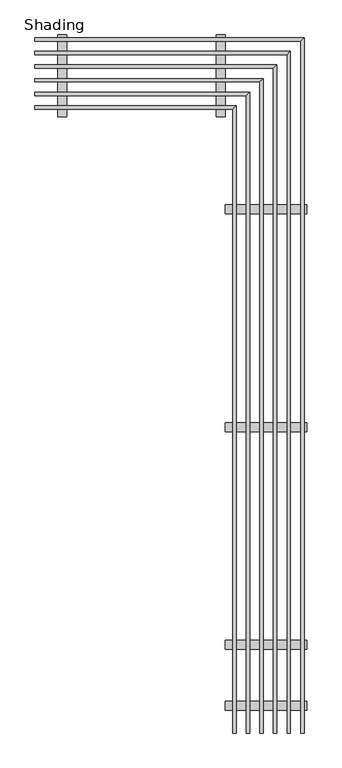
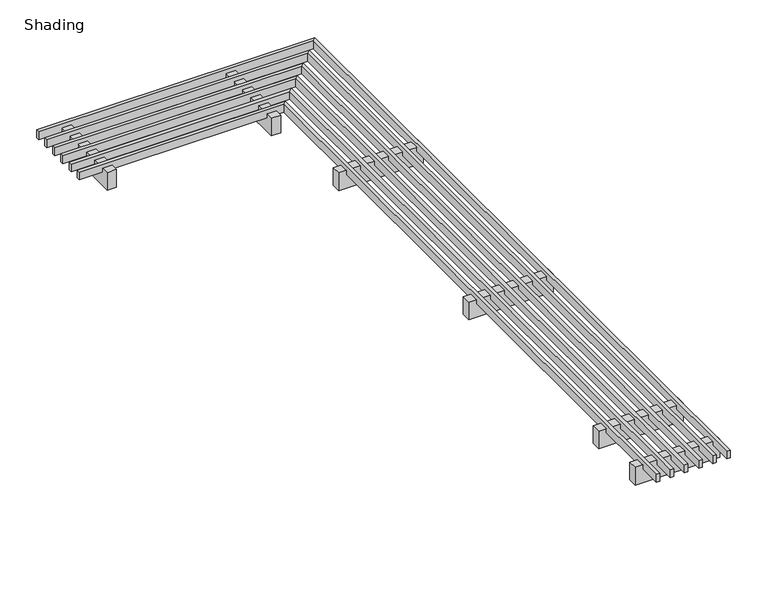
"""IFC4 building model written with IfcOpenShell, lengths in millimetres: railing geometry, Shading."""

from ifc_helpers import new_model, si_unit, frame, origin, place, context, project, spatial, polyline, outline, extrude, faceted_brep, source, transform, mapped, element, save


def shading_939bb1d3(model_context):
    return source(origin(), model_context, "Body", "SolidModel", [
        faceted_brep([(941.7098336, 28943.1084583, 3702.05), (903.6098336, 28943.1084583, 3702.05), (903.6098336, 28943.1084583, 3613.15), (941.7098336, 28943.1084583, 3613.15), (941.7098336, 36734.5584583, 3613.15), (941.7098336, 36734.5584583, 3702.05), (903.6098336, 36696.4584583, 3613.15), (903.6098336, 36696.4584583, 3702.05), (-2074.5401664, 36734.5584583, 3702.05), (-2074.5401664, 36734.5584583, 3613.15), (-2074.5401664, 36696.4584583, 3613.15), (-2074.5401664, 36696.4584583, 3702.05)], [[[0, 1, 2, 3]], [[4, 5, 0, 3]], [[6, 4, 3, 2]], [[7, 6, 2, 1]], [[5, 7, 1, 0]], [[8, 9, 10, 11]], [[9, 8, 5, 4]], [[10, 9, 4, 6]], [[11, 10, 6, 7]], [[8, 11, 7, 5]]]),
        faceted_brep([(789.3098336, 28943.1084583, 3702.05), (751.2098336, 28943.1084583, 3702.05), (751.2098336, 28943.1084583, 3613.15), (789.3098336, 28943.1084583, 3613.15), (789.3098336, 36582.1584583, 3613.15), (789.3098336, 36582.1584583, 3702.05), (751.2098336, 36544.0584583, 3613.15), (751.2098336, 36544.0584583, 3702.05), (-2074.5401664, 36582.1584583, 3702.05), (-2074.5401664, 36582.1584583, 3613.15), (-2074.5401664, 36544.0584583, 3613.15), (-2074.5401664, 36544.0584583, 3702.05)], [[[0, 1, 2, 3]], [[4, 5, 0, 3]], [[6, 4, 3, 2]], [[7, 6, 2, 1]], [[5, 7, 1, 0]], [[8, 9, 10, 11]], [[9, 8, 5, 4]], [[10, 9, 4, 6]], [[11, 10, 6, 7]], [[8, 11, 7, 5]]]),
        faceted_brep([(636.9098336, 28943.1084583, 3702.05), (598.8098336, 28943.1084583, 3702.05), (598.8098336, 28943.1084583, 3613.15), (636.9098336, 28943.1084583, 3613.15), (636.9098336, 36429.7584583, 3613.15), (636.9098336, 36429.7584583, 3702.05), (598.8098336, 36391.6584583, 3613.15), (598.8098336, 36391.6584583, 3702.05), (-2074.5401664, 36429.7584583, 3702.05), (-2074.5401664, 36429.7584583, 3613.15), (-2074.5401664, 36391.6584583, 3613.15), (-2074.5401664, 36391.6584583, 3702.05)], [[[0, 1, 2, 3]], [[4, 5, 0, 3]], [[6, 4, 3, 2]], [[7, 6, 2, 1]], [[5, 7, 1, 0]], [[8, 9, 10, 11]], [[9, 8, 5, 4]], [[10, 9, 4, 6]], [[11, 10, 6, 7]], [[8, 11, 7, 5]]]),
        faceted_brep([(484.5098336, 28943.1084583, 3702.05), (446.4098336, 28943.1084583, 3702.05), (446.4098336, 28943.1084583, 3613.15), (484.5098336, 28943.1084583, 3613.15), (484.5098336, 36277.3584583, 3613.15), (484.5098336, 36277.3584583, 3702.05), (446.4098336, 36239.2584583, 3613.15), (446.4098336, 36239.2584583, 3702.05), (-2074.5401664, 36277.3584583, 3702.05), (-2074.5401664, 36277.3584583, 3613.15), (-2074.5401664, 36239.2584583, 3613.15), (-2074.5401664, 36239.2584583, 3702.05)], [[[0, 1, 2, 3]], [[4, 5, 0, 3]], [[6, 4, 3, 2]], [[7, 6, 2, 1]], [[5, 7, 1, 0]], [[8, 9, 10, 11]], [[9, 8, 5, 4]], [[10, 9, 4, 6]], [[11, 10, 6, 7]], [[8, 11, 7, 5]]]),
        faceted_brep([(332.1098336, 28943.1084583, 3702.05), (294.0098336, 28943.1084583, 3702.05), (294.0098336, 28943.1084583, 3613.15), (332.1098336, 28943.1084583, 3613.15), (332.1098336, 36124.9584583, 3613.15), (332.1098336, 36124.9584583, 3702.05), (294.0098336, 36086.8584583, 3613.15), (294.0098336, 36086.8584583, 3702.05), (-2074.5401664, 36124.9584583, 3702.05), (-2074.5401664, 36124.9584583, 3613.15), (-2074.5401664, 36086.8584583, 3613.15), (-2074.5401664, 36086.8584583, 3702.05)], [[[0, 1, 2, 3]], [[4, 5, 0, 3]], [[6, 4, 3, 2]], [[7, 6, 2, 1]], [[5, 7, 1, 0]], [[8, 9, 10, 11]], [[9, 8, 5, 4]], [[10, 9, 4, 6]], [[11, 10, 6, 7]], [[8, 11, 7, 5]]]),
        faceted_brep([(179.7098336, 28943.1084583, 3702.05), (141.6098336, 28943.1084583, 3702.05), (141.6098336, 28943.1084583, 3613.15), (179.7098336, 28943.1084583, 3613.15), (179.7098336, 35972.5584583, 3613.15), (179.7098336, 35972.5584583, 3702.05), (141.6098336, 35934.4584583, 3613.15), (141.6098336, 35934.4584583, 3702.05), (-2074.5401664, 35972.5584583, 3702.05), (-2074.5401664, 35972.5584583, 3613.15), (-2074.5401664, 35934.4584583, 3613.15), (-2074.5401664, 35934.4584583, 3702.05)], [[[0, 1, 2, 3]], [[4, 5, 0, 3]], [[6, 4, 3, 2]], [[7, 6, 2, 1]], [[5, 7, 1, 0]], [[8, 9, 10, 11]], [[9, 8, 5, 4]], [[10, 9, 4, 6]], [[11, 10, 6, 7]], [[8, 11, 7, 5]]]),
        extrude(outline(polyline([(973.4598336, 29984.5084583), (973.4598336, 29882.9084583), (59.0598336, 29882.9084583), (59.0598336, 29984.5084583), (973.4598336, 29984.5084583)])), frame((0.0, 0.0, 3454.4), z_axis=(0.0, 0.0, 1.0), x_axis=(1.0, 0.0, 0.0)), (0.0, 0.0, 1.0), 203.2),
        extrude(outline(polyline([(973.4598336, 32422.9084583), (973.4598336, 32321.3084583), (59.0598336, 32321.3084583), (59.0598336, 32422.9084583), (973.4598336, 32422.9084583)])), frame((0.0, 0.0, 3454.4), z_axis=(0.0, 0.0, 1.0), x_axis=(1.0, 0.0, 0.0)), (0.0, 0.0, 1.0), 203.2),
        extrude(outline(polyline([(973.4598336, 34861.3084583), (973.4598336, 34759.7084583), (59.0598336, 34759.7084583), (59.0598336, 34861.3084583), (973.4598336, 34861.3084583)])), frame((0.0, 0.0, 3454.4), z_axis=(0.0, 0.0, 1.0), x_axis=(1.0, 0.0, 0.0)), (0.0, 0.0, 1.0), 203.2),
        extrude(outline(polyline([(-42.5401664, 36766.3084583), (59.0598336, 36766.3084583), (59.0598336, 35851.9084583), (-42.5401664, 35851.9084583), (-42.5401664, 36766.3084583)])), frame((0.0, 0.0, 3454.4), z_axis=(0.0, 0.0, 1.0), x_axis=(1.0, 0.0, 0.0)), (0.0, 0.0, 1.0), 203.2),
        extrude(outline(polyline([(973.4598336, 29298.7084583), (973.4598336, 29197.1084583), (59.0598336, 29197.1084583), (59.0598336, 29298.7084583), (973.4598336, 29298.7084583)])), frame((0.0, 0.0, 3454.4), z_axis=(0.0, 0.0, 1.0), x_axis=(1.0, 0.0, 0.0)), (0.0, 0.0, 1.0), 203.2),
        extrude(outline(polyline([(-1820.5401664, 36766.3084583), (-1718.9401664, 36766.3084583), (-1718.9401664, 35851.9084583), (-1820.5401664, 35851.9084583), (-1820.5401664, 36766.3084583)])), frame((0.0, 0.0, 3454.4), z_axis=(0.0, 0.0, 1.0), x_axis=(1.0, 0.0, 0.0)), (0.0, 0.0, 1.0), 203.2),
    ])


if __name__ == "__main__":
    model = new_model("IFC4")
    model_context = context("Model", 3, world=origin())
    ifc_project = project(units=[si_unit("LENGTHUNIT", "METRE", prefix="MILLI")], contexts=[model_context])
    site = spatial("IfcSite", under=ifc_project)
    building = spatial("IfcBuilding", under=site)
    placement = place(None, origin())
    shading_shape = shading_939bb1d3(model_context)
    element("IfcRailing", 1, ObjectType="Shading", at=placement, inside=building, context=model_context, shape_type="MappedRepresentation", body=[
        mapped(shading_shape, transform((0.0, 0.0, 0.0), x_axis=(1.0, 0.0, 0.0), y_axis=(0.0, 1.0, 0.0), z_axis=(0.0, 0.0, 1.0))),
    ])
    save(model, "model.ifc")
